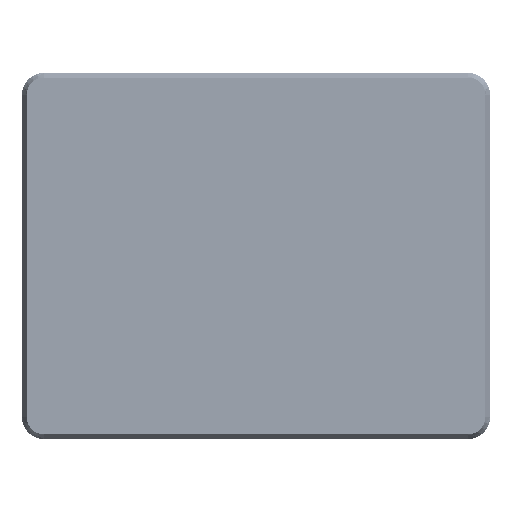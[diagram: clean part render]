
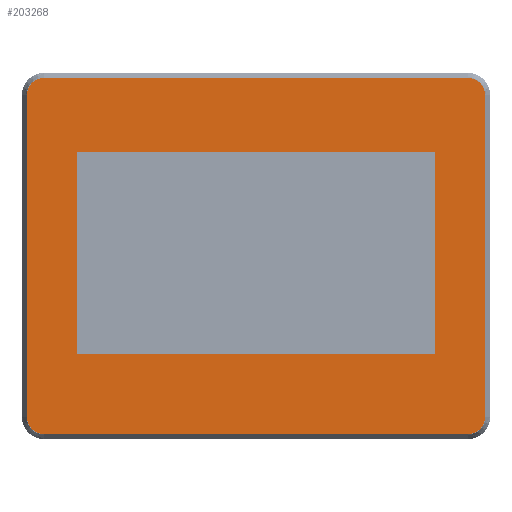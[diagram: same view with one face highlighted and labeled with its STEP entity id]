
A CAD part, top view. The second image highlights one B-rep face of the part: STEP entity #203268.
In plain terms, the highlighted planar face has unit normal (0, 0, 1).
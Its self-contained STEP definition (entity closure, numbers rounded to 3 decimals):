
#8940=FACE_BOUND('',#31909,.T.);
#13370=PLANE('',#219651);
#20409=FACE_OUTER_BOUND('',#31908,.T.);
#31908=EDGE_LOOP('',(#143128,#143129,#143130,#143131,#143132,#143133,#143134,
#143135));
#31909=EDGE_LOOP('',(#143136,#143137,#143138,#143139));
#47815=LINE('',#309837,#67072);
#47818=LINE('',#309843,#67075);
#47821=LINE('',#309849,#67078);
#47824=LINE('',#309853,#67081);
#47827=LINE('',#309861,#67084);
#47831=LINE('',#309873,#67088);
#47835=LINE('',#309885,#67092);
#47839=LINE('',#309897,#67096);
#67072=VECTOR('',#241598,10.);
#67075=VECTOR('',#241603,10.);
#67078=VECTOR('',#241608,10.);
#67081=VECTOR('',#241613,10.);
#67084=VECTOR('',#241618,10.);
#67088=VECTOR('',#241630,10.);
#67092=VECTOR('',#241642,10.);
#67096=VECTOR('',#241654,10.);
#86132=CIRCLE('',#219638,7.4);
#86134=CIRCLE('',#219642,7.4);
#86136=CIRCLE('',#219646,7.4);
#86138=CIRCLE('',#219650,7.4);
#95224=VERTEX_POINT('',#309834);
#95225=VERTEX_POINT('',#309836);
#95227=VERTEX_POINT('',#309842);
#95229=VERTEX_POINT('',#309848);
#95232=VERTEX_POINT('',#309858);
#95233=VERTEX_POINT('',#309860);
#95235=VERTEX_POINT('',#309866);
#95237=VERTEX_POINT('',#309872);
#95239=VERTEX_POINT('',#309878);
#95241=VERTEX_POINT('',#309884);
#95243=VERTEX_POINT('',#309890);
#95245=VERTEX_POINT('',#309896);
#114163=EDGE_CURVE('',#95225,#95224,#47815,.T.);
#114166=EDGE_CURVE('',#95227,#95225,#47818,.T.);
#114169=EDGE_CURVE('',#95229,#95227,#47821,.T.);
#114172=EDGE_CURVE('',#95224,#95229,#47824,.T.);
#114175=EDGE_CURVE('',#95233,#95232,#47827,.T.);
#114178=EDGE_CURVE('',#95235,#95233,#86132,.T.);
#114181=EDGE_CURVE('',#95237,#95235,#47831,.T.);
#114184=EDGE_CURVE('',#95239,#95237,#86134,.T.);
#114187=EDGE_CURVE('',#95241,#95239,#47835,.T.);
#114190=EDGE_CURVE('',#95243,#95241,#86136,.T.);
#114193=EDGE_CURVE('',#95245,#95243,#47839,.T.);
#114196=EDGE_CURVE('',#95232,#95245,#86138,.T.);
#143128=ORIENTED_EDGE('',*,*,#114196,.T.);
#143129=ORIENTED_EDGE('',*,*,#114193,.T.);
#143130=ORIENTED_EDGE('',*,*,#114190,.T.);
#143131=ORIENTED_EDGE('',*,*,#114187,.T.);
#143132=ORIENTED_EDGE('',*,*,#114184,.T.);
#143133=ORIENTED_EDGE('',*,*,#114181,.T.);
#143134=ORIENTED_EDGE('',*,*,#114178,.T.);
#143135=ORIENTED_EDGE('',*,*,#114175,.T.);
#143136=ORIENTED_EDGE('',*,*,#114169,.T.);
#143137=ORIENTED_EDGE('',*,*,#114166,.T.);
#143138=ORIENTED_EDGE('',*,*,#114163,.T.);
#143139=ORIENTED_EDGE('',*,*,#114172,.T.);
#203268=ADVANCED_FACE('',(#20409,#8940),#13370,.T.);
#219638=AXIS2_PLACEMENT_3D('',#309867,#241624,#241625);
#219642=AXIS2_PLACEMENT_3D('',#309879,#241636,#241637);
#219646=AXIS2_PLACEMENT_3D('',#309891,#241648,#241649);
#219650=AXIS2_PLACEMENT_3D('',#309901,#241660,#241661);
#219651=AXIS2_PLACEMENT_3D('',#309902,#241662,#241663);
#241598=DIRECTION('',(0.,1.,0.));
#241603=DIRECTION('',(-1.,0.,0.));
#241608=DIRECTION('',(0.,-1.,0.));
#241613=DIRECTION('',(1.,0.,0.));
#241618=DIRECTION('',(0.,-1.,0.));
#241624=DIRECTION('center_axis',(0.,0.,1.));
#241625=DIRECTION('ref_axis',(0.,1.,0.));
#241630=DIRECTION('',(-1.,0.,0.));
#241636=DIRECTION('center_axis',(0.,0.,1.));
#241637=DIRECTION('ref_axis',(1.,0.,0.));
#241642=DIRECTION('',(0.,1.,0.));
#241648=DIRECTION('center_axis',(0.,0.,1.));
#241649=DIRECTION('ref_axis',(0.,-1.,0.));
#241654=DIRECTION('',(1.,0.,0.));
#241660=DIRECTION('center_axis',(0.,0.,1.));
#241661=DIRECTION('ref_axis',(-1.,0.,0.));
#241662=DIRECTION('center_axis',(0.,0.,1.));
#241663=DIRECTION('ref_axis',(1.,0.,0.));
#309834=CARTESIAN_POINT('',(-77.44,43.51,2.85));
#309836=CARTESIAN_POINT('',(-77.44,-43.51,2.85));
#309837=CARTESIAN_POINT('',(-77.44,-22.405,2.85));
#309842=CARTESIAN_POINT('',(77.44,-43.51,2.85));
#309843=CARTESIAN_POINT('',(38.72,-43.51,2.85));
#309848=CARTESIAN_POINT('',(77.44,43.51,2.85));
#309849=CARTESIAN_POINT('',(77.44,21.105,2.85));
#309853=CARTESIAN_POINT('',(-38.72,43.51,2.85));
#309858=CARTESIAN_POINT('',(-99.,-70.9,2.85));
#309860=CARTESIAN_POINT('',(-99.,68.3,2.85));
#309861=CARTESIAN_POINT('',(-99.,68.3,2.85));
#309866=CARTESIAN_POINT('',(-91.6,75.7,2.85));
#309867=CARTESIAN_POINT('Origin',(-91.6,68.3,2.85));
#309872=CARTESIAN_POINT('',(91.6,75.7,2.85));
#309873=CARTESIAN_POINT('',(91.6,75.7,2.85));
#309878=CARTESIAN_POINT('',(99.,68.3,2.85));
#309879=CARTESIAN_POINT('Origin',(91.6,68.3,2.85));
#309884=CARTESIAN_POINT('',(99.,-70.9,2.85));
#309885=CARTESIAN_POINT('',(99.,-70.9,2.85));
#309890=CARTESIAN_POINT('',(91.6,-78.3,2.85));
#309891=CARTESIAN_POINT('Origin',(91.6,-70.9,2.85));
#309896=CARTESIAN_POINT('',(-91.6,-78.3,2.85));
#309897=CARTESIAN_POINT('',(-91.6,-78.3,2.85));
#309901=CARTESIAN_POINT('Origin',(-91.6,-70.9,2.85));
#309902=CARTESIAN_POINT('Origin',(0.,-1.3,
2.85));
